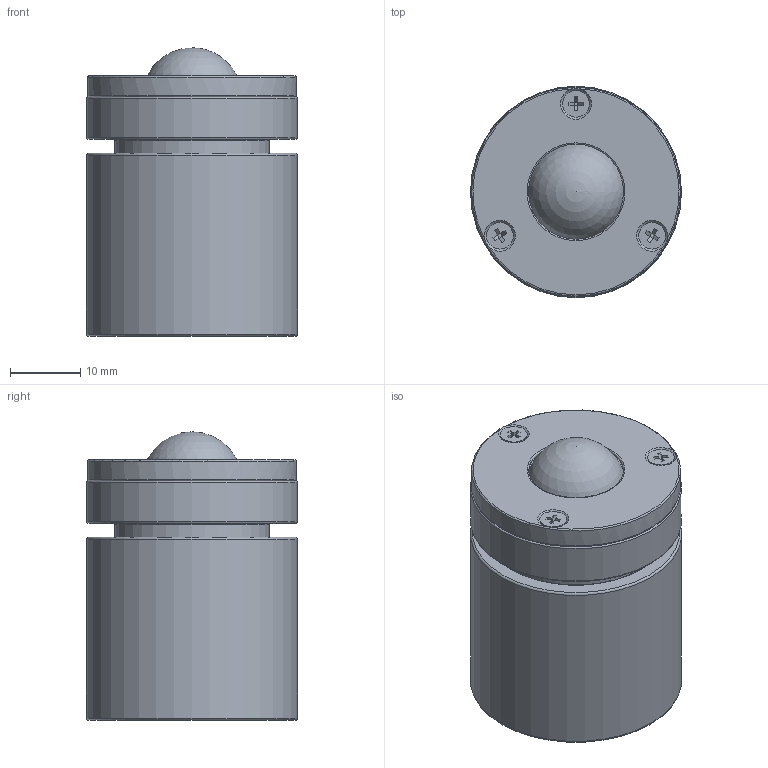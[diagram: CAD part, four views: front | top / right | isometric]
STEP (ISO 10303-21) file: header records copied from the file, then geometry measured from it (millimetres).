
FILE_DESCRIPTION(/* description */ (''),/* implementation_level */ '2;1');
FILE_NAME(/* name */ 'Z:\80-CAD共有ファイル\製品3D\X2\30C730FC30BF\X0\\08-IS-BK(BM)\IS-14BM.stp',/* time_stamp */ '2015-01-06T15:56:56+09:00',/* author */ ('yamaki'),/* organization */ (''),/* preprocessor_version */ 'ST-DEVELOPER v15.6',/* originating_system */ 'Autodesk Inventor 2015',/* authorisation */ '');
FILE_SCHEMA (('AUTOMOTIVE_DESIGN { 1 0 10303 214 3 1 1 }'));
Length unit declared in the file: millimetre
Products named in the file (3): 0814AT-01; 0814AT-02; 0814AA
Bounding box: 30 x 30 x 41 mm (x, y, z)
Volume: 20962.5 mm3; surface area: 9667.1 mm2
Topology: 2 solids, 2 shells, 91 faces, 190 edges, 113 vertices
Faces by surface type: plane 57, torus 13, cylinder 13, cone 7, sphere 1
Full cylindrical faces by diameter (mm): 3.8 x3, 12 x1, 12.3 x1, 13.5 x1, 18 x1, 20 x1, 22 x1, 25.4 x1, 29.7 x1, 30 x2
Entity records: 2301 total; most frequent: CARTESIAN_POINT 410, DIRECTION 388, ORIENTED_EDGE 302, EDGE_CURVE 151, AXIS2_PLACEMENT_3D 148, EDGE_LOOP 135, VERTEX_POINT 106, LINE 92
